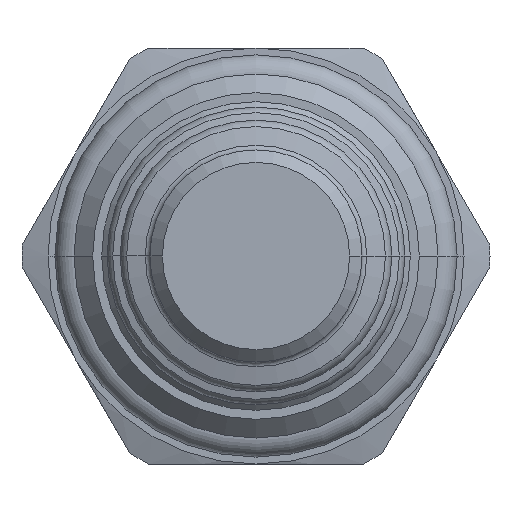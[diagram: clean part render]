
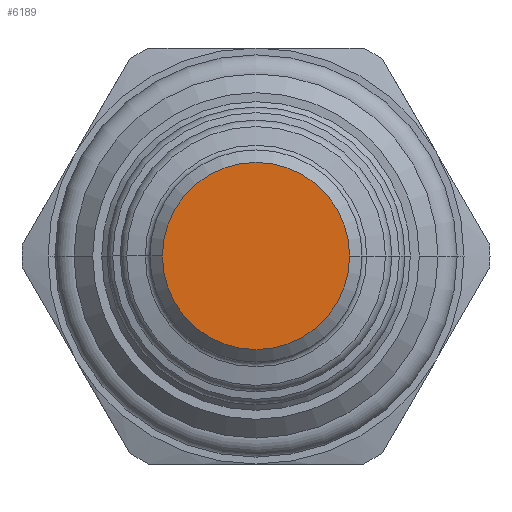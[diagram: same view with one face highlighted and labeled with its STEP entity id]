
A CAD part, front view. The second image highlights one B-rep face of the part: STEP entity #6189.
In plain terms, the highlighted planar face has unit normal (0, -1, 0).
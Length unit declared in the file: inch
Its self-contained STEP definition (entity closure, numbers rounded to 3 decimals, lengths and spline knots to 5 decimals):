
#2353=CARTESIAN_POINT('',(0.,-2.323,0.));
#2354=DIRECTION('',(0.,-1.,0.));
#2355=DIRECTION('',(-1.,0.,0.));
#2356=AXIS2_PLACEMENT_3D('',#2353,#2354,#2355);
#2362=CARTESIAN_POINT('',(0.,-2.323,0.));
#2363=DIRECTION('',(0.,-1.,0.));
#2364=DIRECTION('',(1.,0.,0.));
#2365=AXIS2_PLACEMENT_3D('',#2362,#2363,#2364);
#2960=CARTESIAN_POINT('',(-0.225,-2.323,0.));
#2961=VERTEX_POINT('',#2960);
#2962=CARTESIAN_POINT('',(0.225,-2.323,0.));
#2963=VERTEX_POINT('',#2962);
#6180=CARTESIAN_POINT('',(0.,-2.323,0.));
#6181=DIRECTION('',(0.,-1.,0.));
#6182=DIRECTION('',(-1.,0.,0.));
#6183=AXIS2_PLACEMENT_3D('',#6180,#6181,#6182);
#6184=PLANE('',#6183);
#6185=ORIENTED_EDGE('',*,*,#6174,.F.);
#6186=ORIENTED_EDGE('',*,*,#6160,.F.);
#6187=EDGE_LOOP('',(#6185,#6186));
#6188=FACE_OUTER_BOUND('',#6187,.F.);
#6189=ADVANCED_FACE('',(#6188),#6184,.T.);
#2357=CIRCLE('',#2356,0.225);
#2366=CIRCLE('',#2365,0.225);
#6160=EDGE_CURVE('',#2961,#2963,#2357,.T.);
#6174=EDGE_CURVE('',#2963,#2961,#2366,.T.);
